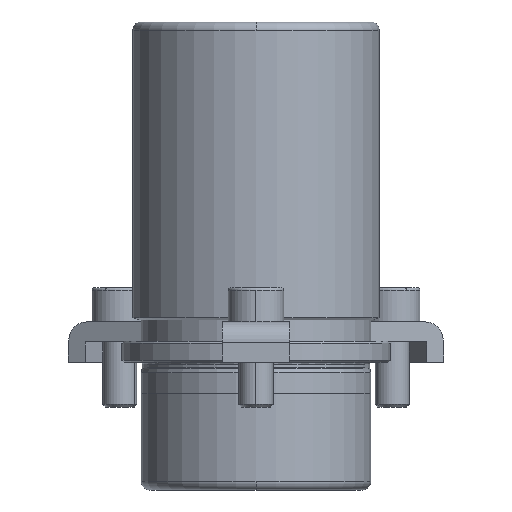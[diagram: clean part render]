
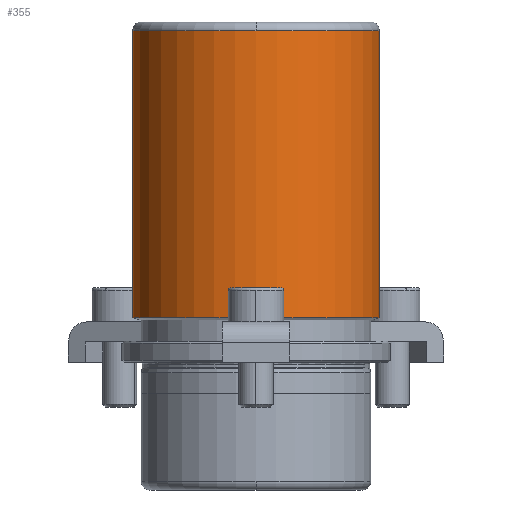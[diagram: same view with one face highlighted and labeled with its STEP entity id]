
A CAD part, front view. The second image highlights one B-rep face of the part: STEP entity #355.
In plain terms, the highlighted cylindrical face has radius 29 mm (diameter 58 mm), a partial arc.
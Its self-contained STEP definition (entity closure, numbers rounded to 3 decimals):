
#269=CARTESIAN_POINT('',(0.0,-29.,78.));
#270=VERTEX_POINT('',#269);
#296=CARTESIAN_POINT('',(-29.0,0.,78.));
#297=VERTEX_POINT('',#296);
#305=CARTESIAN_POINT('',(0.0,0.,78.));
#306=DIRECTION('',(0.0,0.0,1.0));
#307=DIRECTION('',(1.0,0.0,0.0));
#308=AXIS2_PLACEMENT_3D('',#305,#306,#307);
#309=CIRCLE('',#308,29.);
#310=EDGE_CURVE('',#297,#270,#309,.T.);
#315=CARTESIAN_POINT('',(0.0,0.,44.25));
#316=DIRECTION('',(0.0,0.,1.0));
#317=DIRECTION('',(1.0,0.0,0.0));
#318=AXIS2_PLACEMENT_3D('',#315,#316,#317);
#319=CYLINDRICAL_SURFACE('',#318,29.0);
#320=CARTESIAN_POINT('',(29.,0.,78.));
#321=VERTEX_POINT('',#320);
#322=CARTESIAN_POINT('',(29.0,0.,10.5));
#323=VERTEX_POINT('',#322);
#324=CARTESIAN_POINT('',(29.,0.,78.));
#325=DIRECTION('',(0.0,0.0,-1.0));
#326=VECTOR('',#325,67.5);
#327=LINE('',#324,#326);
#328=EDGE_CURVE('',#321,#323,#327,.T.);
#329=ORIENTED_EDGE('',*,*,#328,.F.);
#330=CARTESIAN_POINT('',(0.0,0.,78.));
#331=DIRECTION('',(0.0,0.0,1.0));
#332=DIRECTION('',(1.0,0.0,0.0));
#333=AXIS2_PLACEMENT_3D('',#330,#331,#332);
#334=CIRCLE('',#333,29.);
#335=EDGE_CURVE('',#270,#321,#334,.T.);
#336=ORIENTED_EDGE('',*,*,#335,.F.);
#337=ORIENTED_EDGE('',*,*,#310,.F.);
#338=CARTESIAN_POINT('',(-29.0,0.,10.5));
#339=VERTEX_POINT('',#338);
#340=CARTESIAN_POINT('',(-29.0,0.,78.));
#341=DIRECTION('',(0.0,0.0,-1.0));
#342=VECTOR('',#341,67.5);
#343=LINE('',#340,#342);
#344=EDGE_CURVE('',#297,#339,#343,.T.);
#345=ORIENTED_EDGE('',*,*,#344,.T.);
#346=CARTESIAN_POINT('',(0.0,0.,10.5));
#347=DIRECTION('',(0.0,0.0,1.0));
#348=DIRECTION('',(1.0,0.0,0.0));
#349=AXIS2_PLACEMENT_3D('',#346,#347,#348);
#350=CIRCLE('',#349,29.0);
#351=EDGE_CURVE('',#339,#323,#350,.T.);
#352=ORIENTED_EDGE('',*,*,#351,.T.);
#353=EDGE_LOOP('',(#329,#336,#337,#345,#352));
#354=FACE_OUTER_BOUND('',#353,.T.);
#355=ADVANCED_FACE('',(#354),#319,.T.);
